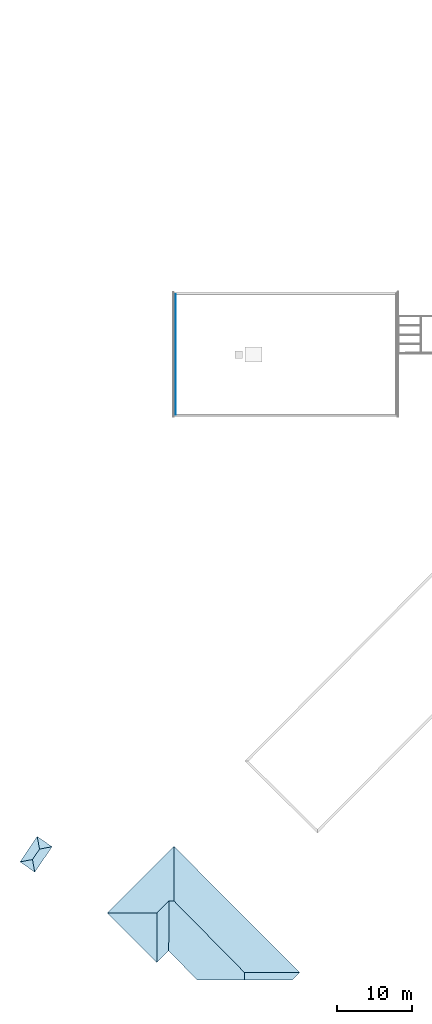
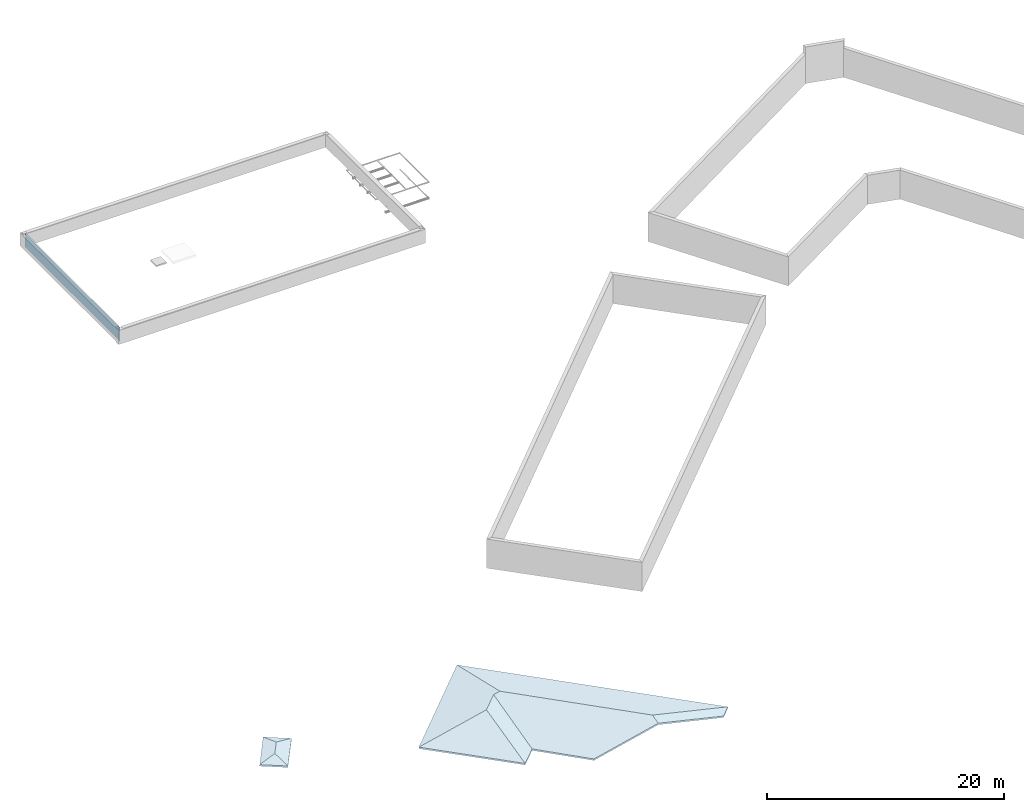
# One storey, part 3 of 8: 2 slabs, 1 building element part, 1 element without a shape of its own.
"""IFC2X3 building model written with IfcOpenShell, lengths in metres."""

from ifc_helpers import new_model, entity, si_unit, converted_unit, derived_unit, money_unit, direction, frame, origin_with_axes, place, context, subcontext, project, spatial, polyline, outline, extrude, boolean, faceted_brep, material, material_list, type_object, element, aggregate, save


model = new_model("IFC2X3")

# Units and contexts
model_context = context("Model", 3, precision=1e-05, world=origin_with_axes(), true_north=direction((0.0, 1.0)))
body_context = subcontext(model_context, "Body", "Model", "MODEL_VIEW")
ifc_project = project(units=[si_unit("LENGTHUNIT", "METRE"), si_unit("AREAUNIT", "SQUARE_METRE"), si_unit("VOLUMEUNIT", "CUBIC_METRE"), converted_unit("PLANEANGLEUNIT", "DEGREE", entity("IfcPlaneAngleMeasure", 0.0174532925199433), si_unit("PLANEANGLEUNIT", "RADIAN"), dimensions=[0, 0, 0, 0, 0, 0, 0]), money_unit("EUR"), converted_unit("TIMEUNIT", "Year", entity("IfcTimeMeasure", 31557600.0), si_unit("TIMEUNIT", "SECOND"), dimensions=[0, 0, 1, 0, 0, 0, 0]), si_unit("MASSUNIT", "GRAM", prefix="KILO"), si_unit("THERMODYNAMICTEMPERATUREUNIT", "DEGREE_CELSIUS"), si_unit("LUMINOUSINTENSITYUNIT", "LUMEN"), si_unit("ENERGYUNIT", "JOULE", prefix="MEGA"), derived_unit("THERMALCONDUCTANCEUNIT", [(si_unit("POWERUNIT", "WATT"), 1), (si_unit("LENGTHUNIT", "METRE"), -1), (si_unit("THERMODYNAMICTEMPERATUREUNIT", "KELVIN"), -1)]), derived_unit("SPECIFICHEATCAPACITYUNIT", [(si_unit("ENERGYUNIT", "JOULE"), 1), (si_unit("MASSUNIT", "GRAM", prefix="KILO"), -1), (si_unit("THERMODYNAMICTEMPERATUREUNIT", "KELVIN"), -1)]), derived_unit("MASSDENSITYUNIT", [(si_unit("MASSUNIT", "GRAM", prefix="KILO"), 1), (si_unit("VOLUMEUNIT", "CUBIC_METRE"), -1)])], contexts=[model_context])

# Site, building, storey
site_placement = place(None, origin_with_axes())
site = spatial("IfcSite", under=ifc_project, at=site_placement, Name="Site", CompositionType="ELEMENT")
building_placement = place(site_placement, origin_with_axes())
building = spatial("IfcBuilding", under=site, at=building_placement, Name="Bâtiment", CompositionType="ELEMENT")
storey_placement = place(building_placement, frame((0.0, 0.0, 7.12), z_axis=(0.0, 0.0, 1.0), x_axis=(1.0, 0.0, 0.0)))
storey = spatial("IfcBuildingStorey", under=building, at=storey_placement, Name="Combles", CompositionType="ELEMENT", Elevation=7.12)

# Slabs
ifc_material_1 = material(Name="*TUILES")
ifc_material_2 = material(Name="*BOIS - LATTAGE OU LITEAUX")
ifc_material_3 = material(Name="*BOIS SOLIVAGE")
ifc_material_list = material_list([ifc_material_1, ifc_material_2, ifc_material_3])
slab_type = type_object("IfcSlabType", Name="*Toiture TUILES 150", PredefinedType="ROOF")
slab_1_placement = place(storey_placement, frame((28.65952697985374, -93.33564035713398, 1.102925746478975), z_axis=(0.0, 0.0, 1.0), x_axis=(1.0, 0.0, 0.0)))
element("IfcSlab", 1, at=slab_1_placement, inside=storey, type_object=slab_type, material=ifc_material_list, Name="Toit-07", PredefinedType="ROOF", context=body_context, shape_type="Brep", body=[
    faceted_brep([(5.437222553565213, -7.887327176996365, 1.785225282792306), (12.78744800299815, -7.892592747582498, 0.06885648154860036), (-3.942739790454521, 8.885604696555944, 0.06885648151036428), (-3.941970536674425, 1.637120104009, 1.757650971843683), (5.430267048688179, -8.885604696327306, 1.553905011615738), (11.79443605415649, -8.885604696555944, 0.06885648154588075), (12.78744800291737, -7.892592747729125, 0.02673475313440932), (-3.942739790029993, 8.885604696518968, 0.02673475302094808), (-12.78744800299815, 0.01174912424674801, 0.06885648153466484), (-6.188736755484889, 0.02031572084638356, 1.609169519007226), (-4.55790210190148, 1.640904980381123, 1.612808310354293), (-4.630510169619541, -4.995195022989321, 0.06885648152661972), (-0.8470412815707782, -8.885604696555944, 0.06885648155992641), (5.430267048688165, -8.885604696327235, 1.511783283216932), (11.79443605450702, -8.885604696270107, 0.02673475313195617), (5.437222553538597, -7.887327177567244, 1.743103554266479), (-3.941970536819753, 1.637120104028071, 1.715529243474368), (-12.7874480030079, 0.01174912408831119, 0.02673475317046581), (-6.211723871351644, -6.551474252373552, 0.06885648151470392), (-4.630510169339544, -4.995195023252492, 0.02673475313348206), (-0.8470412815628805, -8.885604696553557, 0.0267347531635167), (-4.557902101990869, 1.640904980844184, 1.57068658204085), (-6.188736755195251, 0.0203157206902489, 1.567047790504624), (-6.211723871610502, -6.551474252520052, 0.02673475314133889)], [[[0, 1, 2, 3]], [[1, 0, 4, 5]], [[1, 6, 7, 2]], [[3, 2, 8, 9, 10]], [[4, 0, 3, 10, 11, 12]], [[4, 13, 14, 5]], [[6, 1, 5, 14]], [[6, 15, 16, 7]], [[2, 7, 17, 8]], [[18, 9, 8]], [[11, 10, 9, 18]], [[11, 19, 20, 12]], [[13, 4, 12, 20]], [[15, 6, 14, 13]], [[15, 13, 20, 19, 21, 16]], [[7, 16, 21, 22, 17]], [[23, 18, 8, 17]], [[19, 11, 18, 23]], [[21, 19, 23, 22]], [[22, 23, 17]]]),
    faceted_brep([(5.437222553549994, -7.887327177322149, 1.743103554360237), (12.78744800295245, -7.892592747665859, 0.02673475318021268), (-3.942739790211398, 8.885604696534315, 0.02673475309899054), (-3.94197053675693, 1.637120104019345, 1.715529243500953), (5.430267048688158, -8.88560469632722, 1.51178328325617), (11.79443605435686, -8.885604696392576, 0.0267347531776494), (12.78744800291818, -7.892592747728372, -0.00485654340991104), (-3.942739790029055, 8.885604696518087, -0.004856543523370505), (-12.78744800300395, 0.01174912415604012, 0.02673475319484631), (-6.188736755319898, 0.0203157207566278, 1.567047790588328), (-4.557902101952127, 1.640904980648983, 1.57068658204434), (-4.63051016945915, -4.995195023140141, 0.02673475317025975), (-0.847041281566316, -8.885604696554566, 0.02673475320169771), (5.430267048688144, -8.885604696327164, 1.480191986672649), (11.79443605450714, -8.88560469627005, -0.004856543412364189), (5.437222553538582, -7.88732717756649, 1.711512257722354), (-3.941970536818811, 1.637120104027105, 1.683937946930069), (-12.78744800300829, 0.01174912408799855, -0.004856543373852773), (-6.21172387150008, -6.551474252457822, 0.02673475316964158), (-4.630510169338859, -4.99519502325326, -0.004856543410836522), (-0.8470412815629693, -8.885604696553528, -0.004856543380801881), (-4.557902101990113, 1.640904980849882, 1.539095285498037), (-6.188736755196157, 0.02031572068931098, 1.535456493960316), (-6.211723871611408, -6.551474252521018, -0.004856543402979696)], [[[0, 1, 2, 3]], [[1, 0, 4, 5]], [[1, 6, 7, 2]], [[3, 2, 8, 9, 10]], [[4, 0, 3, 10, 11, 12]], [[4, 13, 14, 5]], [[6, 1, 5, 14]], [[6, 15, 16, 7]], [[2, 7, 17, 8]], [[18, 9, 8]], [[11, 10, 9, 18]], [[11, 19, 20, 12]], [[13, 4, 12, 20]], [[15, 6, 14, 13]], [[15, 13, 20, 19, 21, 16]], [[7, 16, 21, 22, 17]], [[23, 18, 8, 17]], [[19, 11, 18, 23]], [[21, 19, 23, 22]], [[22, 23, 17]]]),
    faceted_brep([(5.437222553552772, -7.887327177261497, 1.711512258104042), (12.78744800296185, -7.892592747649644, -0.004856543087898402), (-3.942739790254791, 8.885604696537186, -0.004856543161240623), (-3.94197053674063, 1.637120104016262, 1.683937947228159), (5.430267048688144, -8.885604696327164, 1.480191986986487), (11.7944360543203, -8.885604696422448, -0.004856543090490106), (12.78744800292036, -7.892592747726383, -0.08910000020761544), (-3.942739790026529, 8.885604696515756, -0.0891000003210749), (-12.78744800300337, 0.01174912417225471, -0.004856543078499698), (-6.188736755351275, 0.0203157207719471, 1.535456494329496), (-4.557902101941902, 1.640904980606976, 1.539095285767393), (-4.630510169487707, -4.995195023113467, -0.004856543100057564), (-0.8470412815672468, -8.885604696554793, -0.004856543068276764), (5.430267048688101, -8.885604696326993, 1.395948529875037), (11.79443605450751, -8.88560469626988, -0.08910000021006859), (5.437222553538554, -7.887327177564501, 1.627268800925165), (-3.941970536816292, 1.637120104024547, 1.599694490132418), (-12.78744800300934, 0.01174912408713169, -0.08910000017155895), (-6.211723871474, -6.551474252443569, -0.004856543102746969), (-4.630510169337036, -4.995195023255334, -0.0891000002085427), (-0.8470412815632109, -8.885604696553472, -0.08910000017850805), (-4.557902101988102, 1.640904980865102, 1.454851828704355), (-6.188736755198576, 0.02031572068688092, 1.451213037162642), (-6.211723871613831, -6.55147425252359, -0.08910000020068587)], [[[0, 1, 2, 3]], [[1, 0, 4, 5]], [[1, 6, 7, 2]], [[3, 2, 8, 9, 10]], [[4, 0, 3, 10, 11, 12]], [[4, 13, 14, 5]], [[6, 1, 5, 14]], [[6, 15, 16, 7]], [[2, 7, 17, 8]], [[18, 9, 8]], [[11, 10, 9, 18]], [[11, 19, 20, 12]], [[13, 4, 12, 20]], [[15, 6, 14, 13]], [[15, 13, 20, 19, 21, 16]], [[7, 16, 21, 22, 17]], [[23, 18, 8, 17]], [[19, 11, 18, 23]], [[21, 19, 23, 22]], [[22, 23, 17]]]),
])
slab_2_placement = place(storey_placement, frame((6.406199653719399, -85.52025512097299, -0.8200000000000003), z_axis=(0.0, 0.0, 1.0), x_axis=(1.0, 0.0, 0.0)))
element("IfcSlab", 2, at=slab_2_placement, inside=storey, type_object=slab_type, material=ifc_material_list, Name="Toit-07", PredefinedType="ROOF", context=body_context, shape_type="Brep", body=[
    faceted_brep([(2.132779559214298, 1.007908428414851, 0.08283474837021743), (2.132779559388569, 1.007908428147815, 0.1249564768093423), (-0.1726246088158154, -2.362197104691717, 0.1249564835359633), (-0.1726246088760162, -2.362197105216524, 0.082834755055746), (0.1516977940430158, 2.362197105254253, 0.08283475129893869), (0.1516977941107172, 2.362197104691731, 0.1249564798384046), (0.4677789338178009, 0.6952889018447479, 0.5202029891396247), (-0.4799081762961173, -0.6954258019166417, 0.5192045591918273), (-2.13277955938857, -1.003220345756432, 0.1249564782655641), (-2.132779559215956, -1.003220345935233, 0.08283474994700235), (0.4677789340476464, 0.6952889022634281, 0.4780812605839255), (-0.4799081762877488, -0.695425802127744, 0.4770828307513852)], [[[0, 1, 2, 3]], [[1, 0, 4, 5]], [[1, 6, 7, 2]], [[3, 2, 8, 9]], [[10, 0, 3, 11]], [[0, 10, 4]], [[5, 4, 9, 8]], [[6, 1, 5]], [[6, 5, 8, 7]], [[2, 7, 8]], [[11, 3, 9]], [[4, 10, 11, 9]]]),
    faceted_brep([(2.132779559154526, 1.007908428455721, 0.05124345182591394), (2.132779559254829, 1.007908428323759, 0.08283474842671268), (-0.1726246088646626, -2.36219710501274, 0.08283475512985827), (-0.1726246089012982, -2.3621971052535, 0.05124345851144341), (0.1516977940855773, 2.36219710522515, 0.05124345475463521), (0.1516977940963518, 2.36219710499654, 0.08283475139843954), (0.4677789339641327, 0.6952889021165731, 0.4780812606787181), (-0.4799081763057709, -0.6954258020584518, 0.4770828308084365), (-2.132779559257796, -1.003220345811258, 0.08283474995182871), (-2.132779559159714, -1.00322034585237, 0.05124345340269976), (0.4677789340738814, 0.695288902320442, 0.4464899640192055), (-0.4799081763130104, -0.6954258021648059, 0.4454915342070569)], [[[0, 1, 2, 3]], [[1, 0, 4, 5]], [[1, 6, 7, 2]], [[3, 2, 8, 9]], [[10, 0, 3, 11]], [[0, 10, 4]], [[5, 4, 9, 8]], [[6, 1, 5]], [[6, 5, 8, 7]], [[2, 7, 8]], [[11, 3, 9]], [[4, 10, 11, 9]]]),
    faceted_brep([(2.13277955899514, 1.007908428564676, -0.03300000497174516), (2.132779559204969, 1.007908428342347, 0.05124345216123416), (-0.1726246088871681, -2.362197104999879, 0.05124345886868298), (-0.1726246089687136, -2.362197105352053, -0.03299999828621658), (0.1516977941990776, 2.362197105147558, -0.03300000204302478), (0.1516977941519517, 2.362197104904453, 0.05124345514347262), (0.4677789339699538, 0.6952889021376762, 0.4464899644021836), (-0.479908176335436, -0.6954258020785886, 0.4454915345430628), (-2.132779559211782, -1.003220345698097, 0.05124345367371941), (-2.132779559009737, -1.003220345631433, -0.03300000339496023), (0.4677789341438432, 0.6952889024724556, 0.3622465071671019), (-0.4799081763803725, -0.6954258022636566, 0.3612480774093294)], [[[0, 1, 2, 3]], [[1, 0, 4, 5]], [[1, 6, 7, 2]], [[3, 2, 8, 9]], [[10, 0, 3, 11]], [[0, 10, 4]], [[5, 4, 9, 8]], [[6, 1, 5]], [[6, 5, 8, 7]], [[2, 7, 8]], [[11, 3, 9]], [[4, 10, 11, 9]]]),
])

# Wall, building element part
wall_type = type_object("IfcWallType", Name="*MACONNERIE BARDAGE METAL Acrotère 318", PredefinedType="NOTDEFINED")
wall_placement = place(storey_placement, frame((24.98999999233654, -11.14756213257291, -0.334784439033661), z_axis=(0.0, 0.0, 1.0), x_axis=(0.0, -1.0, 0.0)))
wall = element("IfcWall", 3, at=wall_placement, inside=storey, type_object=wall_type, Name="Mur maçonné + ITI + véture métallique")
ifc_material_4 = material(Name="*GENERIQUE - ENDUIT EXT")
building_element_part_placement = place(wall_placement, origin_with_axes())
solid = boolean("DIFFERENCE", boolean("DIFFERENCE", boolean("DIFFERENCE", boolean("DIFFERENCE", boolean("DIFFERENCE", boolean("DIFFERENCE", boolean("DIFFERENCE", boolean("DIFFERENCE", extrude(outline(polyline([(-0.3680000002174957, -0.06800000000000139), (16.28800002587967, -0.06800000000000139), (16.28800002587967, -0.05000000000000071), (-0.3680000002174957, -0.05000000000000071), (-0.3680000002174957, -0.06800000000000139)])), origin_with_axes(), (0.0, 0.0, 1.0), 1.434784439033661), faceted_brep([(15.97000002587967, -0.04999999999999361, 0.0), (15.97000002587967, -0.04999999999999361, 1.434784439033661), (16.28800002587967, -0.05000000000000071, 1.434784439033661), (16.28800002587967, -0.05000000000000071, 0.0), (15.97000002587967, -0.06799999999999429, 1.434784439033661), (15.97000002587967, -0.06799999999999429, 0.0), (16.28800002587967, -0.06800000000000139, 1.434784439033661), (16.28800002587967, -0.06800000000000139, 0.0)], [[[0, 1, 2, 3]], [[4, 1, 0, 5]], [[1, 4, 6, 2]], [[6, 7, 3, 2]], [[5, 0, 3, 7]], [[4, 5, 7, 6]]])), faceted_brep([(-0.04999998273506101, -0.06800000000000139, 1.434784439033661), (-0.04999998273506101, -0.05000000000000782, 1.434784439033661), (-0.3680000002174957, -0.05000000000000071, 1.434784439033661), (-0.3680000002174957, -0.06800000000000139, 1.434784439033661), (-0.04999998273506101, -0.05000000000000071, 0.08067000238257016), (-0.04999998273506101, -0.06799999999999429, 0.08067000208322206), (15.81000015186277, -0.04999999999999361, 0.08067000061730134), (15.81000015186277, -0.04999999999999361, 0.0), (-0.3680000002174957, -0.05000000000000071, 0.0), (0.0, -0.05000000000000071, 0.08067000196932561), (5.485002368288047, -0.04999999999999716, 0.08067000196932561), (5.485002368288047, -0.05000000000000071, 0.2510174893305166), (5.735002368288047, -0.05000000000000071, 0.2510174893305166), (5.735002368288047, -0.04999999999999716, 0.08067000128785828), (10.18500243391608, -0.04999999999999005, 0.08067000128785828), (10.18500243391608, -0.04999999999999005, 0.2275174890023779), (10.43500243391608, -0.04999999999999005, 0.2275174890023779), (10.43500243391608, -0.04999999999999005, 0.08067000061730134), (-0.3680000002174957, -0.06800000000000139, 0.0), (15.81000015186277, -0.06800000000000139, 0.0), (15.81000015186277, -0.06800000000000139, 0.08067000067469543), (0.0, -0.06800000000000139, 0.08067000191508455), (10.43500243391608, -0.05800630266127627, 0.08067000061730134), (10.18500243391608, -0.05800630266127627, 0.08067000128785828), (5.735002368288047, -0.05799987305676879, 0.08067000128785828), (5.485002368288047, -0.05799987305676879, 0.08067000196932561), (5.485002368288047, -0.05799987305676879, 0.2510174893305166), (5.735002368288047, -0.05799987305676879, 0.2510174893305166), (10.18500243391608, -0.05800630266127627, 0.2275174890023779), (10.43500243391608, -0.05800630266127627, 0.2275174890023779)], [[[0, 1, 2, 3]], [[4, 1, 0, 5]], [[6, 7, 8, 2, 1, 4, 9, 10, 11, 12, 13, 14, 15, 16, 17]], [[2, 8, 18, 3]], [[5, 0, 3, 18, 19, 20, 21]], [[9, 4, 5, 21]], [[7, 6, 20, 19]], [[7, 19, 18, 8]], [[10, 9, 21, 20, 6, 17, 22, 23, 14, 13, 24, 25]], [[11, 10, 25, 26]], [[12, 11, 26, 27]], [[13, 12, 27, 24]], [[15, 14, 23, 28]], [[16, 15, 28, 29]], [[17, 16, 29, 22]], [[22, 29, 28, 23]], [[24, 27, 26, 25]]])), faceted_brep([(15.98800002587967, -0.06799999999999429, 0.0), (15.98800002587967, -0.06799999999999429, 1.434784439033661), (16.28800002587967, -0.06800000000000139, 1.434784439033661), (16.28800002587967, -0.06800000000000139, 0.0), (15.98800002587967, -0.2679999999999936, 1.434784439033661), (15.98800002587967, -0.2679999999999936, 0.0), (16.28800002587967, -0.2680000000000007, 1.434784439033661), (16.28800002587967, -0.2680000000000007, 0.0)], [[[0, 1, 2, 3]], [[4, 1, 0, 5]], [[1, 4, 6, 2]], [[2, 6, 7, 3]], [[5, 0, 3, 7]], [[4, 5, 7, 6]]])), faceted_brep([(-0.06799998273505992, -0.2680000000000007, 1.434784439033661), (-0.06799998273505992, -0.06800000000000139, 1.434784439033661), (-0.3680000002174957, -0.06800000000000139, 1.434784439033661), (-0.3680000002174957, -0.2680000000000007, 1.434784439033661), (-0.06799998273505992, -0.06799999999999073, 0.08067000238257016), (-0.06799998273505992, -0.2680000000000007, 0.08067000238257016), (15.81000015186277, -0.06800000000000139, 0.08067000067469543), (15.81000015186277, -0.06800000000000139, 0.0), (-0.3680000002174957, -0.06800000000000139, 0.0), (-0.04999998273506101, -0.06799999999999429, 0.08067000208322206), (0.0, -0.06800000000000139, 0.08067000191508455), (-0.3680000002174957, -0.2680000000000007, 0.0), (15.81000015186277, -0.2680000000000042, 0.0), (15.81000015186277, -0.2680000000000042, 0.08067000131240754), (0.0, -0.2680000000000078, 0.08067000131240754)], [[[0, 1, 2, 3]], [[4, 1, 0, 5]], [[6, 7, 8, 2, 1, 4, 9, 10]], [[3, 2, 8, 11]], [[5, 0, 3, 11, 12, 13, 14]], [[9, 4, 5, 14, 10]], [[7, 6, 13, 12]], [[7, 12, 11, 8]], [[6, 10, 14, 13]]])), faceted_brep([(-0.3680000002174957, -0.2680000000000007, 1.434784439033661), (-0.3680000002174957, -0.2779999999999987, 1.434784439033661), (-0.267999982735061, -0.2780000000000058, 1.434784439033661), (-0.267999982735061, -0.2680000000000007, 1.434784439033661), (-0.3680000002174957, -0.2779999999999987, 0.0), (-0.3680000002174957, -0.2680000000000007, 0.0), (15.81000015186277, -0.2780000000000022, 0.0806700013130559), (0.0, -0.2780000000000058, 0.0806700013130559), (-0.267999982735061, -0.2779999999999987, 0.08067000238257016), (15.81000015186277, -0.2780000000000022, 0.0), (-0.267999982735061, -0.2679999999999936, 0.08067000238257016), (0.0, -0.2680000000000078, 0.0806700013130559), (15.81000015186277, -0.2680000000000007, 0.0806700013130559), (15.81000015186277, -0.2680000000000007, 0.0)], [[[0, 1, 2, 3]], [[4, 1, 0, 5]], [[6, 7, 8, 2, 1, 4, 9]], [[2, 8, 10, 3]], [[10, 11, 12, 13, 5, 0, 3]], [[4, 5, 13, 9]], [[7, 6, 12, 11]], [[8, 7, 11, 10]], [[6, 9, 13, 12]]])), faceted_brep([(16.28800002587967, -0.2680000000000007, 0.0), (16.18800002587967, -0.2679999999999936, 0.0), (16.18800002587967, -0.2679999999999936, 1.434784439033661), (16.28800002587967, -0.2680000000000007, 1.434784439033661), (16.28800002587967, -0.2779999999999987, 0.0), (16.18800002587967, -0.2779999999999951, 0.0), (16.18800002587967, -0.2779999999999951, 1.434784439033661), (16.28800002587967, -0.2779999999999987, 1.434784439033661)], [[[0, 1, 2, 3]], [[4, 5, 1, 0]], [[5, 6, 2, 1]], [[3, 2, 6, 7]], [[3, 7, 4, 0]], [[7, 6, 5, 4]]])), faceted_brep([(16.28800002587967, -0.2779999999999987, 0.0), (16.19800002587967, -0.2779999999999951, 0.0), (16.19800002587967, -0.2779999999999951, 1.434784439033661), (16.28800002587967, -0.2779999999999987, 1.434784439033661), (16.28800002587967, -0.3279999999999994, 0.0), (16.19800002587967, -0.3279999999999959, 0.0), (16.19800002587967, -0.3279999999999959, 1.434784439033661), (16.28800002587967, -0.3279999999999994, 1.434784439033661)], [[[0, 1, 2, 3]], [[4, 5, 1, 0]], [[5, 6, 2, 1]], [[3, 2, 6, 7]], [[0, 3, 7, 4]], [[7, 6, 5, 4]]])), faceted_brep([(-0.3680000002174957, -0.3279999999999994, 1.434784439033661), (-0.2779999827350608, -0.3279999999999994, 1.434784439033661), (-0.2779999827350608, -0.2779999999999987, 1.434784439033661), (-0.3680000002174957, -0.2779999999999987, 1.434784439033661), (0.0, -0.3280000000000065, 0.08067000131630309), (-0.2779999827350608, -0.3279999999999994, 0.08067000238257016), (-0.3680000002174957, -0.3279999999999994, 0.0), (15.81000015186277, -0.328000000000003, 0.0), (15.81000015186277, -0.328000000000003, 0.08067000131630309), (-0.2779999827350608, -0.2779999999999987, 0.08067000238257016), (0.0, -0.2780000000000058, 0.08067000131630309), (15.81000015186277, -0.2780000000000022, 0.08067000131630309), (15.81000015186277, -0.2780000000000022, 0.0), (-0.3680000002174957, -0.2779999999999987, 0.0)], [[[0, 1, 2, 3]], [[4, 5, 1, 0, 6, 7, 8]], [[5, 9, 2, 1]], [[10, 11, 12, 13, 3, 2, 9]], [[6, 0, 3, 13]], [[4, 10, 9, 5]], [[13, 12, 7, 6]], [[7, 12, 11, 8]], [[8, 11, 10, 4]]]))
building_element_part = element("IfcBuildingElementPart", 4, at=building_element_part_placement, material=ifc_material_4, Name="*GENERIQUE - ENDUIT EXT", context=body_context, shape_type="CSG", body=[
    boolean("DIFFERENCE", boolean("DIFFERENCE", solid, faceted_brep([(16.24800002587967, -0.3279999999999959, 0.0), (16.24800002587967, -0.3279999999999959, 1.434784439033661), (16.28800002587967, -0.3279999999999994, 1.434784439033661), (16.28800002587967, -0.3279999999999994, 0.0), (16.24800002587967, -0.367999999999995, 1.434784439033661), (16.24800002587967, -0.367999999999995, 0.0), (16.28800002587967, -0.3679999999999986, 1.434784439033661), (16.28800002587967, -0.3679999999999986, 0.0)], [[[0, 1, 2, 3]], [[4, 1, 0, 5]], [[1, 4, 6, 2]], [[2, 6, 7, 3]], [[5, 0, 3, 7]], [[4, 5, 7, 6]]])), faceted_brep([(-0.3279999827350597, -0.3679999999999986, 1.434784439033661), (-0.3279999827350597, -0.3279999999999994, 1.434784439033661), (-0.3680000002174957, -0.3279999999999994, 1.434784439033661), (-0.3680000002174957, -0.3679999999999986, 1.434784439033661), (-0.3279999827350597, -0.3279999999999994, 0.08067000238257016), (-0.3279999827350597, -0.3679999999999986, 0.08067000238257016), (15.81000015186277, -0.328000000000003, 0.0806700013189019), (15.81000015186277, -0.328000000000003, 0.0), (-0.3680000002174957, -0.3279999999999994, 0.0), (0.0, -0.3280000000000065, 0.0806700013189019), (-0.3680000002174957, -0.3679999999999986, 0.0), (15.81000015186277, -0.3680000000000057, 0.0), (15.81000015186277, -0.3680000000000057, 0.0806700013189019), (0.0, -0.3680000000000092, 0.0806700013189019)], [[[0, 1, 2, 3]], [[4, 1, 0, 5]], [[6, 7, 8, 2, 1, 4, 9]], [[3, 2, 8, 10]], [[5, 0, 3, 10, 11, 12, 13]], [[9, 4, 5, 13]], [[7, 6, 12, 11]], [[7, 11, 10, 8]], [[6, 9, 13, 12]]])),
])
aggregate(wall, [building_element_part])

save(model, "model.ifc")
